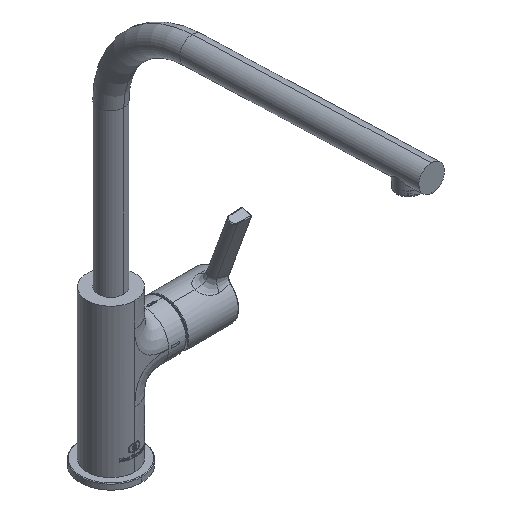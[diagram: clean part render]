
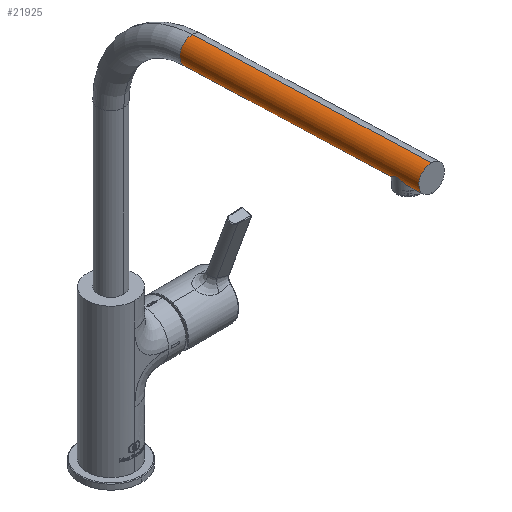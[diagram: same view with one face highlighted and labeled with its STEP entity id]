
A CAD part, isometric view. The second image highlights one B-rep face of the part: STEP entity #21925.
In plain terms, the highlighted cylindrical face has radius 10 mm (diameter 20 mm), a partial arc.
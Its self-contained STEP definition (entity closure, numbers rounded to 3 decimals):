
#5512=CARTESIAN_POINT('',(0.,-241.213,307.953));
#5513=CARTESIAN_POINT('',(-0.553,-241.213,
307.953));
#5514=CARTESIAN_POINT('',(-1.67,-241.115,
308.039));
#5515=CARTESIAN_POINT('',(-3.382,-240.628,
308.468));
#5516=CARTESIAN_POINT('',(-4.911,-239.855,
309.144));
#5517=CARTESIAN_POINT('',(-6.235,-238.857,
310.004));
#5518=CARTESIAN_POINT('',(-7.28,-237.75,
310.936));
#5519=CARTESIAN_POINT('',(-8.04,-236.662,
311.817));
#5520=CARTESIAN_POINT('',(-8.577,-235.644,
312.595));
#5521=CARTESIAN_POINT('',(-8.957,-234.69,
313.262));
#5522=CARTESIAN_POINT('',(-9.236,-233.716,
313.846));
#5523=CARTESIAN_POINT('',(-9.408,-232.763,
314.265));
#5524=CARTESIAN_POINT('',(-9.483,-231.846,
314.455));
#5525=CARTESIAN_POINT('',(-9.474,-230.979,
314.398));
#5526=CARTESIAN_POINT('',(-9.382,-230.093,
314.101));
#5527=CARTESIAN_POINT('',(-9.199,-229.196,
313.6));
#5528=CARTESIAN_POINT('',(-8.905,-228.269,
312.934));
#5529=CARTESIAN_POINT('',(-8.506,-227.364,
312.189));
#5530=CARTESIAN_POINT('',(-7.958,-226.422,
311.352));
#5531=CARTESIAN_POINT('',(-7.198,-225.431,
310.424));
#5532=CARTESIAN_POINT('',(-6.185,-224.443,
309.465));
#5533=CARTESIAN_POINT('',(-4.887,-223.533,
308.562));
#5534=CARTESIAN_POINT('',(-3.374,-222.82,
307.845));
#5535=CARTESIAN_POINT('',(-1.669,-222.365,
307.384));
#5536=CARTESIAN_POINT('',(-0.554,-222.274,
307.291));
#5537=CARTESIAN_POINT('',(0.,-222.274,307.291));
#5539=DIRECTION('',(0.,-0.999,0.035));
#5540=VECTOR('',#5539,158.325);
#5541=CARTESIAN_POINT('',(0.,-64.046,301.766));
#5542=LINE('',#5541,#5540);
#5543=CARTESIAN_POINT('',(0.,-63.697,311.76));
#5544=DIRECTION('',(0.,-0.999,0.035));
#5545=DIRECTION('',(0.,0.035,0.999));
#5546=AXIS2_PLACEMENT_3D('',#5543,#5544,#5545);
#5548=DIRECTION('',(0.,-0.999,0.035));
#5549=VECTOR('',#5548,186.1);
#5550=CARTESIAN_POINT('',(0.,-63.348,321.754));
#5551=LINE('',#5550,#5549);
#5552=DIRECTION('',(0.,-0.999,0.035));
#5553=VECTOR('',#5552,8.825);
#5554=CARTESIAN_POINT('',(0.,-241.213,307.953));
#5555=LINE('',#5554,#5553);
#5596=CARTESIAN_POINT('',(0.,-249.683,318.255));
#5597=DIRECTION('',(0.,-0.999,0.035));
#5598=DIRECTION('',(0.,0.035,0.999));
#5599=AXIS2_PLACEMENT_3D('',#5596,#5597,#5598);
#7762=CARTESIAN_POINT('',(0.,-249.334,328.248));
#7763=CARTESIAN_POINT('',(0.,-250.032,308.261));
#7764=VERTEX_POINT('',#7762);
#7765=VERTEX_POINT('',#7763);
#7770=CARTESIAN_POINT('',(0.,-63.348,321.754));
#7771=CARTESIAN_POINT('',(0.,-64.046,301.766));
#7772=VERTEX_POINT('',#7770);
#7773=VERTEX_POINT('',#7771);
#7991=VERTEX_POINT('',#5512);
#7992=VERTEX_POINT('',#5537);
#21907=CARTESIAN_POINT('',(0.,-63.697,311.76));
#21908=DIRECTION('',(0.,-0.999,0.035));
#21909=DIRECTION('',(0.,0.035,0.999));
#21910=AXIS2_PLACEMENT_3D('',#21907,#21908,#21909);
#21911=CYLINDRICAL_SURFACE('',#21910,10.);
#21913=ORIENTED_EDGE('',*,*,#21912,.T.);
#21915=ORIENTED_EDGE('',*,*,#21914,.F.);
#21916=ORIENTED_EDGE('',*,*,#21894,.F.);
#21918=ORIENTED_EDGE('',*,*,#21917,.T.);
#21920=ORIENTED_EDGE('',*,*,#21919,.T.);
#21922=ORIENTED_EDGE('',*,*,#21921,.F.);
#21923=EDGE_LOOP('',(#21913,#21915,#21916,#21918,#21920,#21922));
#21924=FACE_OUTER_BOUND('',#21923,.F.);
#5538=B_SPLINE_CURVE_WITH_KNOTS('',3,(#5512,#5513,#5514,#5515,#5516,#5517,#5518,
#5519,#5520,#5521,#5522,#5523,#5524,#5525,#5526,#5527,#5528,#5529,#5530,#5531,
#5532,#5533,#5534,#5535,#5536,#5537),.UNSPECIFIED.,.F.,.F.,(4,1,1,1,1,1,1,1,1,1,
1,1,1,1,1,1,1,1,1,1,1,1,1,4),(0.,0.043,0.087,
0.13,0.174,0.217,0.261,
0.304,0.348,0.391,0.435,
0.478,0.522,0.565,0.609,
0.652,0.696,0.739,0.783,
0.826,0.87,0.913,0.957,1.),
.UNSPECIFIED.);
#5547=CIRCLE('',#5546,10.);
#5600=CIRCLE('',#5599,10.);
#21894=EDGE_CURVE('',#7772,#7773,#5547,.T.);
#21912=EDGE_CURVE('',#7991,#7992,#5538,.T.);
#21914=EDGE_CURVE('',#7773,#7992,#5542,.T.);
#21917=EDGE_CURVE('',#7772,#7764,#5551,.T.);
#21919=EDGE_CURVE('',#7764,#7765,#5600,.T.);
#21921=EDGE_CURVE('',#7991,#7765,#5555,.T.);
#21925=ADVANCED_FACE('',(#21924),#21911,.T.);
